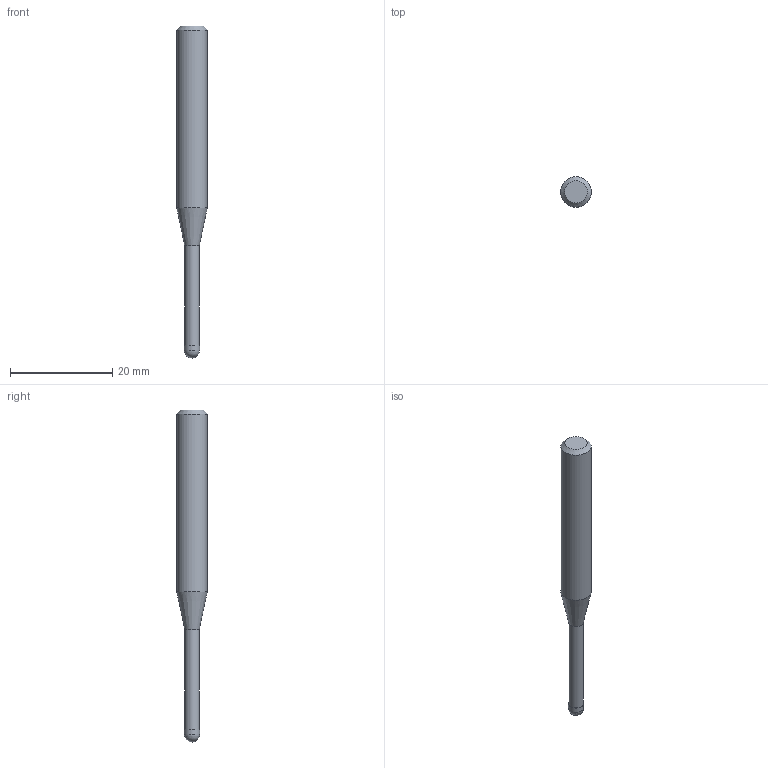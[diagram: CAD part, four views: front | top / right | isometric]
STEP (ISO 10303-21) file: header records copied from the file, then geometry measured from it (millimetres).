
FILE_DESCRIPTION((''),'2;1');
FILE_NAME('C:\Users\nsx150\AppData\Local\Temp\Mastercam 2021\ARV7HD45SN\TEMP.step','2023-06-13T16:38:31',(''),(''),'STEP Write','Mastercam 2021 ... CNC Software, Inc.','');
FILE_SCHEMA(('AUTOMOTIVE_DESIGN'));
Length unit declared in the file: millimetre
Products named in the file (1): None
Bounding box: 6 x 6 x 65 mm (x, y, z)
Volume: 1258.1 mm3; surface area: 1006.4 mm2
Topology: 2 solids, 2 shells, 9 faces, 14 edges, 8 vertices
Faces by surface type: plane 3, cylinder 3, cone 2, sphere 1
Full cylindrical faces by diameter (mm): 2.85 x1, 3 x1, 6 x1
Entity records: 211 total; most frequent: DIRECTION 36, CARTESIAN_POINT 25, AXIS2_PLACEMENT_3D 18, ORIENTED_EDGE 14, EDGE_LOOP 14, STYLED_ITEM 12, ADVANCED_FACE 9, FACE_BOUND 8
